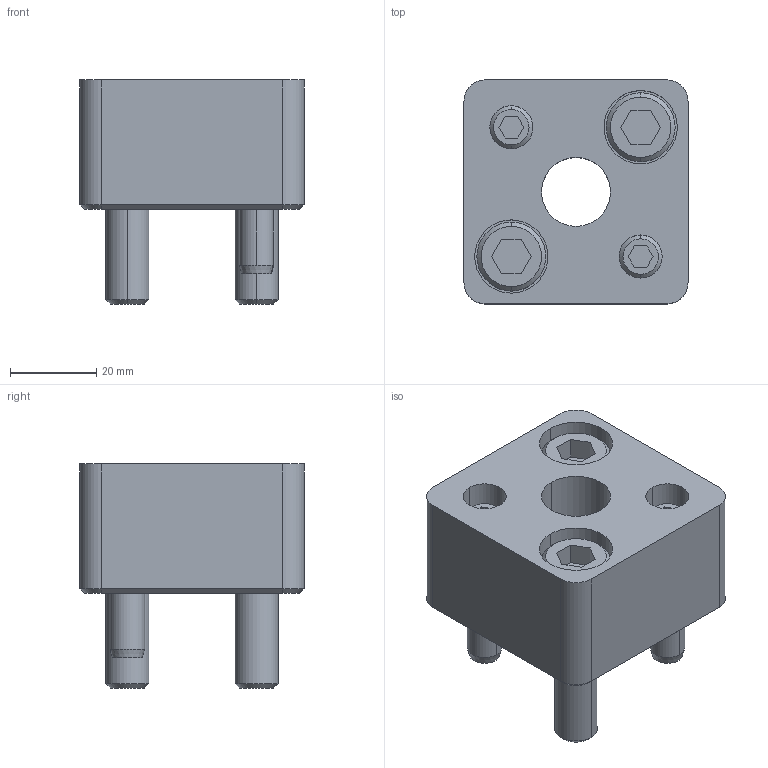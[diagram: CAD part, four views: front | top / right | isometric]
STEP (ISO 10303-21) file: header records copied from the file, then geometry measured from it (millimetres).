
FILE_DESCRIPTION(/* description */ (''),/* implementation_level */ '2;1');
FILE_NAME(/* name */ '3d_hmpsr16_04139_r00.stp',/* time_stamp */ '2011-01-10T14:14:41+09:00',/* author */ ('MISUMI'),/* organization */ (''),/* preprocessor_version */ 'ST-DEVELOPER v11',/* originating_system */ 'UGS - NX 5.0',/* authorisation */ '');
FILE_SCHEMA (('CONFIG_CONTROL_DESIGN'));
Length unit declared in the file: millimetre
Products named in the file (1): 3d_hmpsr16_04139_r00
Bounding box: 52 x 52 x 52 mm (x, y, z)
Volume: 74649.5 mm3; surface area: 23529.4 mm2
Topology: 7 solids, 7 shells, 143 faces, 310 edges, 196 vertices
Faces by surface type: plane 63, cylinder 50, cone 30
Entity records: 4026 total; most frequent: DIRECTION 718, CARTESIAN_POINT 704, ORIENTED_EDGE 620, EDGE_CURVE 310, AXIS2_PLACEMENT_3D 274, VERTEX_POINT 196, LINE 170, VECTOR 170
